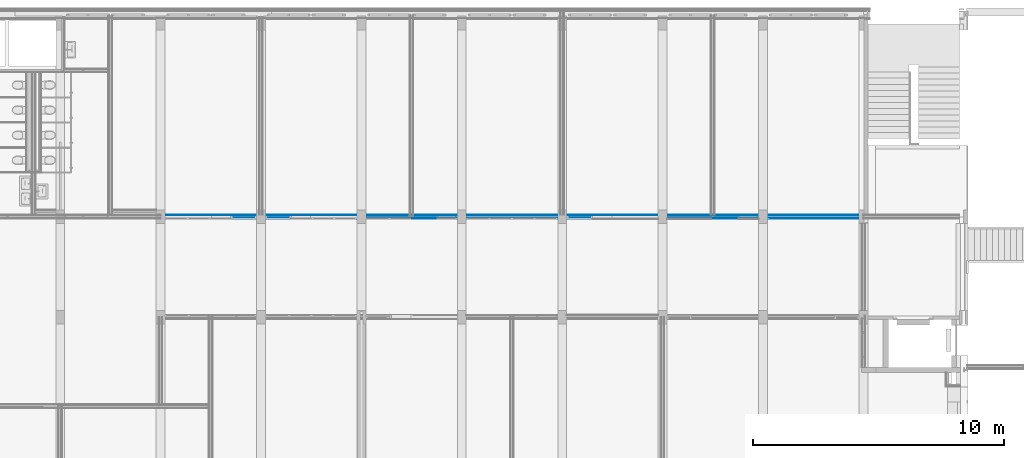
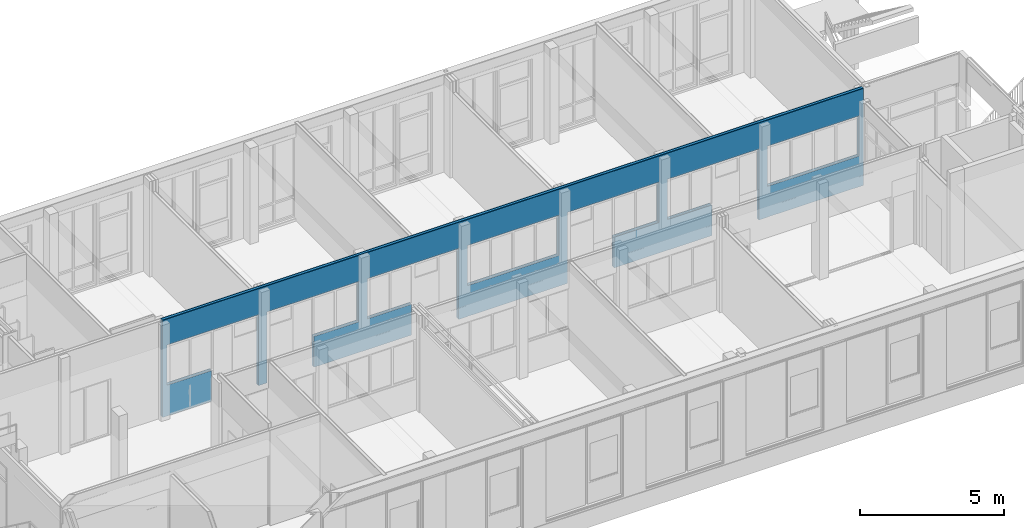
# One storey, part 67 of 94: 5 building element parts, 10 openings, 1 element without a shape of its own.
"""IFC2X3 building model written with IfcOpenShell, lengths in millimetres."""

from ifc_helpers import new_model, entity, si_unit, converted_unit, derived_unit, money_unit, direction, frame, origin_with_axes, place, context, subcontext, project, spatial, faceted_brep, material, type_object, element, aggregate, save


model = new_model("IFC2X3")

# Units and contexts
model_context = context("Model", 3, precision=0.01, world=origin_with_axes(), true_north=direction((0.0, 1.0)))
body_context = subcontext(model_context, "Body", "Model", "MODEL_VIEW")
ifc_project = project(units=[si_unit("LENGTHUNIT", "METRE", prefix="MILLI"), si_unit("AREAUNIT", "SQUARE_METRE"), si_unit("VOLUMEUNIT", "CUBIC_METRE"), converted_unit("PLANEANGLEUNIT", "DEGREE", entity("IfcPlaneAngleMeasure", 0.0174532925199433), si_unit("PLANEANGLEUNIT", "RADIAN"), dimensions=[0, 0, 0, 0, 0, 0, 0]), money_unit("EUR"), converted_unit("TIMEUNIT", "Year", entity("IfcTimeMeasure", 31557600.0), si_unit("TIMEUNIT", "SECOND"), dimensions=[0, 0, 1, 0, 0, 0, 0]), si_unit("MASSUNIT", "GRAM", prefix="KILO"), si_unit("THERMODYNAMICTEMPERATUREUNIT", "DEGREE_CELSIUS"), si_unit("LUMINOUSINTENSITYUNIT", "LUMEN"), si_unit("ENERGYUNIT", "JOULE", prefix="MEGA"), derived_unit("THERMALCONDUCTANCEUNIT", [(si_unit("POWERUNIT", "WATT"), 1), (si_unit("LENGTHUNIT", "METRE"), -1), (si_unit("THERMODYNAMICTEMPERATUREUNIT", "KELVIN"), -1)]), derived_unit("SPECIFICHEATCAPACITYUNIT", [(si_unit("ENERGYUNIT", "JOULE"), 1), (si_unit("MASSUNIT", "GRAM", prefix="KILO"), -1), (si_unit("THERMODYNAMICTEMPERATUREUNIT", "KELVIN"), -1)]), derived_unit("MASSDENSITYUNIT", [(si_unit("MASSUNIT", "GRAM", prefix="KILO"), 1), (si_unit("VOLUMEUNIT", "CUBIC_METRE"), -1)])], contexts=[model_context])

# Site, building, storey
site_placement = place(None, origin_with_axes())
site = spatial("IfcSite", under=ifc_project, at=site_placement, Name="<site naam>", CompositionType="ELEMENT")
building_placement = place(site_placement, origin_with_axes())
building = spatial("IfcBuilding", under=site, at=building_placement, Name="<Naam gebouw>", CompositionType="ELEMENT")
storey_placement = place(building_placement, frame((0.0, 0.0, 4250.0), z_axis=(0.0, 0.0, 1.0), x_axis=(1.0, 0.0, 0.0)))
storey = spatial("IfcBuildingStorey", under=building, at=storey_placement, Name="01 1e verdieping", CompositionType="ELEMENT", Elevation=4250.0)

# Wall, openings, building element parts
wall_type = type_object("IfcWallType", Name="MS-01 GF 150 ECO DGS/2.100.2.A 150", PredefinedType="NOTDEFINED")
wall_placement = place(storey_placement, frame((20000.00000000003, 12000.00000000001, 0.0), z_axis=(0.0, 0.0, 1.0), x_axis=(1.0, 0.0, 0.0)))
wall = element("IfcWall", 1, at=wall_placement, inside=storey, type_object=wall_type, Name="22_Binnenwand_MS-01")
opening_1_placement = place(wall_placement, frame((14000.00013982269, 0.0, 1300.0), z_axis=(0.0, 0.0, 1.0), x_axis=(1.0, 0.0, 0.0)))
element("IfcOpeningElement", 2, at=opening_1_placement, cuts=wall, Name="22_BI-E-01_305", context=body_context, shape_type="Brep", body=[
    faceted_brep([(1825.000000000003, 76.00000000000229, 1700.0), (1825.000000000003, 76.00000000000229, 0.0), (-1825.000000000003, 76.00000000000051, 0.0), (-1825.000000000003, 76.00000000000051, 1700.0), (1825.000000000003, -75.99999999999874, 1700.0), (1825.000000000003, -75.99999999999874, 0.0), (-1825.000000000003, -76.00000000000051, 0.0), (-1825.000000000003, -76.00000000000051, 1700.0)], [[[0, 1, 2, 3]], [[4, 5, 1, 0]], [[5, 6, 2, 1]], [[6, 7, 3, 2]], [[7, 4, 0, 3]], [[6, 5, 4, 7]]]),
])
opening_2_placement = place(wall_placement, frame((6899.999999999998, 0.0, 1300.0), z_axis=(0.0, 0.0, 1.0), x_axis=(1.0, 0.0, 0.0)))
element("IfcOpeningElement", 3, at=opening_2_placement, cuts=wall, Name="22_BI-E-01_305", context=body_context, shape_type="Brep", body=[
    faceted_brep([(925.0000000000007, 75.99999999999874, 1700.0), (925.0000000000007, 75.99999999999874, 0.0), (-925.0000000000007, 75.99999999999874, 0.0), (-925.0000000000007, 75.99999999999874, 1700.0), (925.0000000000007, -76.00000000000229, 1700.0), (925.0000000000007, -76.00000000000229, 0.0), (-925.0000000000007, -76.00000000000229, 0.0), (-925.0000000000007, -76.00000000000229, 1700.0)], [[[0, 1, 2, 3]], [[4, 5, 1, 0]], [[5, 6, 2, 1]], [[6, 7, 3, 2]], [[7, 4, 0, 3]], [[6, 5, 4, 7]]]),
])
opening_3_placement = place(wall_placement, frame((25999.95013982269, 0.0, 1300.0), z_axis=(0.0, 0.0, 1.0), x_axis=(1.0, 0.0, 0.0)))
element("IfcOpeningElement", 4, at=opening_3_placement, cuts=wall, Name="22_BI-E-01_305", context=body_context, shape_type="Brep", body=[
    faceted_brep([(1824.950000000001, 76.00000000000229, 1700.0), (1824.950000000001, 76.00000000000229, 0.0), (-1824.950000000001, 76.00000000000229, 0.0), (-1824.950000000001, 76.00000000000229, 1700.0), (1824.950000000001, -75.99999999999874, 1700.0), (1824.950000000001, -75.99999999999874, 0.0), (-1824.950000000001, -75.99999999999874, 0.0), (-1824.950000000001, -75.99999999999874, 1700.0)], [[[0, 1, 2, 3]], [[4, 5, 1, 0]], [[5, 6, 2, 1]], [[6, 7, 3, 2]], [[7, 4, 0, 3]], [[6, 5, 4, 7]]]),
])
opening_4_placement = place(wall_placement, frame((2891.499938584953, 0.0, 0.0), z_axis=(0.0, 0.0, 1.0), x_axis=(1.0, 0.0, 0.0)))
element("IfcOpeningElement", 5, at=opening_4_placement, cuts=wall, Name="22_BI-E-02_305", context=body_context, shape_type="Brep", body=[
    faceted_brep([(933.4999999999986, 75.99999999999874, 3000.0), (933.4999999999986, 75.99999999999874, 0.0), (-933.4999999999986, 75.99999999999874, 0.0), (-933.4999999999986, 75.99999999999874, 3000.0), (933.4999999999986, -76.00000000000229, 3000.0), (933.4999999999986, -76.00000000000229, 0.0), (-933.4999999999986, -76.00000000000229, 0.0), (-933.4999999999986, -76.00000000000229, 3000.0)], [[[0, 1, 2, 3]], [[4, 5, 1, 0]], [[5, 6, 2, 1]], [[6, 7, 3, 2]], [[7, 4, 0, 3]], [[6, 5, 4, 7]]]),
])
opening_5_placement = place(wall_placement, frame((18900.00000000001, 0.0, 1300.0), z_axis=(0.0, 0.0, 1.0), x_axis=(1.0, 0.0, 0.0)))
element("IfcOpeningElement", 6, at=opening_5_placement, cuts=wall, Name="22_BI-E-01_305", context=body_context, shape_type="Brep", body=[
    faceted_brep([(924.9999999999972, 76.00000000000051, 1700.0), (924.9999999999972, 76.00000000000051, 0.0), (-924.9999999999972, 76.00000000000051, 0.0), (-924.9999999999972, 76.00000000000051, 1700.0), (924.9999999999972, -76.00000000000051, 1700.0), (924.9999999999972, -76.00000000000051, 0.0), (-924.9999999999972, -76.00000000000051, 0.0), (-924.9999999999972, -76.00000000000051, 1700.0)], [[[0, 1, 2, 3]], [[4, 5, 1, 0]], [[5, 6, 2, 1]], [[6, 7, 3, 2]], [[7, 4, 0, 3]], [[6, 5, 4, 7]]]),
])
opening_6_placement = place(wall_placement, frame((1099.999945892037, 0.0, 1300.0), z_axis=(0.0, 0.0, 1.0), x_axis=(1.0, 0.0, 0.0)))
element("IfcOpeningElement", 7, at=opening_6_placement, cuts=wall, Name="22_BI-E-01_305", context=body_context, shape_type="Brep", body=[
    faceted_brep([(925.0000000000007, 75.99999999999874, 1700.0), (925.0000000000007, 75.99999999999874, 0.0), (-925.0000000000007, 75.99999999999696, 0.0), (-925.0000000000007, 75.99999999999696, 1700.0), (925.0000000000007, -76.00000000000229, 1700.0), (925.0000000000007, -76.00000000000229, 0.0), (-925.0000000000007, -76.00000000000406, 0.0), (-925.0000000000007, -76.00000000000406, 1700.0)], [[[0, 1, 2, 3]], [[4, 5, 1, 0]], [[5, 6, 2, 1]], [[6, 7, 3, 2]], [[7, 4, 0, 3]], [[6, 5, 4, 7]]]),
])
opening_7_placement = place(wall_placement, frame((5108.499999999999, 0.0, 0.0), z_axis=(0.0, 0.0, 1.0), x_axis=(1.0, 0.0, 0.0)))
element("IfcOpeningElement", 8, at=opening_7_placement, cuts=wall, Name="22_BI-E-02 sp_305", context=body_context, shape_type="Brep", body=[
    faceted_brep([(933.4999999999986, 75.99999999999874, 3000.0), (933.4999999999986, 75.99999999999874, 0.0), (-933.4999999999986, 75.99999999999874, 0.0), (-933.4999999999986, 75.99999999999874, 3000.0), (933.4999999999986, -76.00000000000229, 3000.0), (933.4999999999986, -76.00000000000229, 0.0), (-933.4999999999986, -76.00000000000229, 0.0), (-933.4999999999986, -76.00000000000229, 3000.0)], [[[0, 1, 2, 3]], [[4, 5, 1, 0]], [[5, 6, 2, 1]], [[6, 7, 3, 2]], [[7, 4, 0, 3]], [[6, 5, 4, 7]]]),
])
opening_8_placement = place(wall_placement, frame((10000.13498763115, 0.0, 0.0), z_axis=(0.0, 0.0, 1.0), x_axis=(1.0, 0.0, 0.0)))
element("IfcOpeningElement", 9, at=opening_8_placement, cuts=wall, Name="22_BI-E-03 sp_305", context=body_context, shape_type="Brep", body=[
    faceted_brep([(-58.86501235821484, 76.00000000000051, 1300.0), (-1825.000000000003, 76.00000000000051, 1300.0), (-1825.000000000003, 76.00000000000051, 3000.0), (1825.000000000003, 76.00000000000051, 3000.0), (1825.000000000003, 76.00000000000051, 0.0), (-58.86501235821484, 76.00000000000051, 0.0), (-58.86501235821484, -76.00000000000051, 1300.0), (-1825.000000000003, -76.00000000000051, 1300.0), (-1825.000000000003, -76.00000000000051, 3000.0), (1825.000000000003, -76.00000000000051, 3000.0), (1825.000000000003, -76.00000000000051, 0.0), (-58.86501235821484, -76.00000000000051, 0.0)], [[[0, 1, 2, 3, 4, 5]], [[6, 7, 1, 0]], [[7, 8, 2, 1]], [[8, 9, 3, 2]], [[9, 10, 4, 3]], [[10, 11, 5, 4]], [[11, 6, 0, 5]], [[8, 7, 6, 11, 10, 9]]]),
])
opening_9_placement = place(wall_placement, frame((22000.13498763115, 0.0, 0.0), z_axis=(0.0, 0.0, 1.0), x_axis=(1.0, 0.0, 0.0)))
element("IfcOpeningElement", 10, at=opening_9_placement, cuts=wall, Name="22_BI-E-03 sp_305", context=body_context, shape_type="Brep", body=[
    faceted_brep([(-58.86501235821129, 76.00000000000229, 1300.0), (-1825.000000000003, 76.00000000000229, 1300.0), (-1825.000000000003, 76.00000000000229, 3000.0), (1825.000000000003, 76.00000000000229, 3000.0), (1825.000000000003, 76.00000000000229, 0.0), (-58.86501235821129, 76.00000000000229, 0.0), (-58.86501235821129, -75.99999999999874, 1300.0), (-1825.000000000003, -75.99999999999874, 1300.0), (-1825.000000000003, -75.99999999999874, 3000.0), (1825.000000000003, -75.99999999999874, 3000.0), (1825.000000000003, -75.99999999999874, 0.0), (-58.86501235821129, -75.99999999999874, 0.0)], [[[0, 1, 2, 3, 4, 5]], [[6, 7, 1, 0]], [[7, 8, 2, 1]], [[8, 9, 3, 2]], [[9, 10, 4, 3]], [[10, 11, 5, 4]], [[11, 6, 0, 5]], [[8, 7, 6, 11, 10, 9]]]),
])
opening_10_placement = place(wall_placement, frame((17108.50000000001, 0.0, 0.0), z_axis=(0.0, 0.0, 1.0), x_axis=(1.0, 0.0, 0.0)))
element("IfcOpeningElement", 11, at=opening_10_placement, cuts=wall, Name="22_BI-E-02 sp_305", context=body_context, shape_type="Brep", body=[
    faceted_brep([(933.5000000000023, 76.00000000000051, 3000.0), (933.5000000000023, 76.00000000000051, 0.0), (-933.5000000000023, 76.00000000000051, 0.0), (-933.5000000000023, 76.00000000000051, 3000.0), (933.5000000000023, -76.00000000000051, 3000.0), (933.5000000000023, -76.00000000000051, 0.0), (-933.5000000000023, -76.00000000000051, 0.0), (-933.5000000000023, -76.00000000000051, 3000.0)], [[[0, 1, 2, 3]], [[4, 5, 1, 0]], [[5, 6, 2, 1]], [[6, 7, 3, 2]], [[7, 4, 0, 3]], [[6, 5, 4, 7]]]),
])
ifc_material_1 = material(Name="gipsplaat")
building_element_part_1_placement = place(wall_placement, origin_with_axes())
building_element_part_1 = element("IfcBuildingElementPart", 12, at=building_element_part_1_placement, material=ifc_material_1, Name="gipsplaat", context=body_context, shape_type="Brep", body=[
    faceted_brep([(0.0, 62.5, 4100.0), (28000.0, 62.50000000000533, 4100.0), (28000.0, 62.50000000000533, 0.0), (15825.00014205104, 62.50000000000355, 0.0), (15825.00014205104, 62.50000000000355, 3.000000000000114), (12175.00013982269, 62.50000000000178, 3.000000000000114), (12175.00013982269, 62.50000000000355, 0.0), (11825.00006482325, 62.50000000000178, 0.0), (11825.00006482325, 62.50000000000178, 3.000000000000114), (10075.13486833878, 62.50000000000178, 3.000000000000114), (10075.13486833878, 62.50000000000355, 0.0), (7824.999998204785, 62.50000000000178, 0.0), (7824.999998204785, 62.50000000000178, 3.000000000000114), (4174.999999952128, 62.50000000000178, 3.000000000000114), (4174.999999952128, 62.50000000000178, 0.0), (0.0, 62.5, 0.0), (2790.999938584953, 62.50000000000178, 22.99999999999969), (2790.999938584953, 62.50000000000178, 19.99999999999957), (3824.999938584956, 62.50000000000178, 19.99999999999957), (3824.999938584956, 62.50000000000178, 22.99999999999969), (16175.0000112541, 62.50000000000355, 22.99999999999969), (16175.0000112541, 62.50000000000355, 19.99999999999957), (17131.51933240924, 62.50000000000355, 19.99999999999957), (17131.51933240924, 62.50000000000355, 22.99999999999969), (26875.11118928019, 62.50000000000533, 22.99999999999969), (26875.11118928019, 62.50000000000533, 19.99999999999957), (27824.99998043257, 62.50000000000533, 19.99999999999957), (27824.99998043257, 62.50000000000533, 22.99999999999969), (28000.0, 50.00000000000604, 4100.0), (0.0, 50.00000000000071, 4100.0), (28000.0, 50.00000000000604, 0.0), (15825.00014205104, 50.00000000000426, 0.0), (15825.00014205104, 50.00000000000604, 3.000000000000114), (12175.00013982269, 50.00000000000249, 3.000000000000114), (12175.00013982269, 50.00000000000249, 0.0), (11825.00006482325, 50.00000000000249, 0.0), (11825.00006482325, 50.00000000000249, 3.000000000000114), (10075.13486833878, 50.00000000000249, 3.000000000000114), (10075.13486833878, 50.00000000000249, 0.0), (7824.999998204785, 50.00000000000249, 0.0), (7824.999998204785, 50.00000000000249, 3.000000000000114), (4174.999999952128, 50.00000000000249, 3.000000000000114), (4174.999999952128, 50.00000000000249, 0.0), (0.0, 50.00000000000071, 0.0), (2790.999938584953, 50.00000000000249, 19.99999999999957), (2790.999938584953, 50.00000000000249, 22.99999999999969), (3824.999938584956, 50.00000000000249, 19.99999999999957), (3824.999938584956, 50.00000000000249, 22.99999999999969), (16175.0000112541, 50.00000000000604, 19.99999999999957), (16175.0000112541, 50.00000000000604, 22.99999999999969), (17131.51933240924, 50.00000000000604, 19.99999999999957), (17131.51933240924, 50.00000000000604, 22.99999999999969), (26875.11118928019, 50.00000000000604, 19.99999999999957), (26875.11118928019, 50.00000000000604, 22.99999999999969), (27824.99998043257, 50.00000000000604, 19.99999999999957), (27824.99998043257, 50.00000000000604, 22.99999999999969)], [[[0, 1, 2, 3, 4, 5, 6, 7, 8, 9, 10, 11, 12, 13, 14, 15], [16, 17, 18, 19], [20, 21, 22, 23], [24, 25, 26, 27]], [[28, 1, 0, 29]], [[1, 28, 30, 2]], [[30, 31, 3, 2]], [[32, 4, 3, 31]], [[33, 5, 4, 32]], [[34, 6, 5, 33]], [[7, 6, 34, 35]], [[36, 8, 7, 35]], [[37, 9, 8, 36]], [[38, 10, 9, 37]], [[11, 10, 38, 39]], [[40, 12, 11, 39]], [[41, 13, 12, 40]], [[42, 14, 13, 41]], [[15, 14, 42, 43]], [[29, 0, 15, 43]], [[44, 17, 16, 45]], [[46, 18, 17, 44]], [[47, 19, 18, 46]], [[45, 16, 19, 47]], [[48, 21, 20, 49]], [[50, 22, 21, 48]], [[51, 23, 22, 50]], [[49, 20, 23, 51]], [[52, 25, 24, 53]], [[54, 26, 25, 52]], [[55, 27, 26, 54]], [[53, 24, 27, 55]], [[28, 29, 43, 42, 41, 40, 39, 38, 37, 36, 35, 34, 33, 32, 31, 30], [46, 44, 45, 47], [50, 48, 49, 51], [54, 52, 53, 55]]]),
])
building_element_part_2_placement = place(wall_placement, origin_with_axes())
building_element_part_2 = element("IfcBuildingElementPart", 13, at=building_element_part_2_placement, material=ifc_material_1, Name="gipsplaat", context=body_context, shape_type="Brep", body=[
    faceted_brep([(0.0, 75.00000000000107, 4100.0), (28000.0, 75.0000000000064, 4100.0), (28000.0, 75.00000000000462, 0.0), (15825.00014205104, 75.0000000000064, 0.0), (15825.00014205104, 75.00000000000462, 3.000000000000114), (12175.00013982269, 75.00000000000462, 3.000000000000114), (12175.00013982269, 75.00000000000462, 0.0), (11825.00006482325, 75.00000000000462, 0.0), (11825.00006482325, 75.00000000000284, 3.000000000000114), (10075.13486833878, 75.00000000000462, 3.000000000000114), (10075.13486833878, 75.00000000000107, 0.0), (7824.999998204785, 75.00000000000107, 0.0), (7824.999998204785, 75.00000000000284, 3.000000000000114), (4174.999999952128, 75.00000000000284, 3.000000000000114), (4174.999999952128, 75.00000000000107, 0.0), (0.0, 74.99999999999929, 0.0), (174.9999458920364, 75.00000000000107, 22.99999999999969), (174.9999458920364, 75.00000000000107, 19.99999999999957), (3824.999938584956, 75.00000000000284, 19.99999999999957), (3824.999938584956, 75.00000000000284, 22.99999999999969), (16175.0000112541, 75.0000000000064, 22.99999999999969), (16175.0000112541, 75.00000000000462, 19.99999999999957), (19824.99993651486, 75.0000000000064, 19.99999999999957), (19824.99993651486, 75.0000000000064, 22.99999999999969), (20174.99989846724, 75.0000000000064, 22.99999999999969), (20174.99989846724, 75.0000000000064, 19.99999999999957), (21925.00018281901, 75.0000000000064, 19.99999999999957), (21925.00018281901, 75.0000000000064, 22.99999999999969), (22075.00002827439, 75.0000000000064, 22.99999999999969), (22075.00002827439, 75.0000000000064, 19.99999999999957), (23825.00001886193, 75.0000000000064, 19.99999999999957), (23825.00001886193, 75.0000000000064, 22.99999999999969), (24175.00004066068, 75.0000000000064, 22.99999999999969), (24175.00004066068, 75.0000000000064, 19.99999999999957), (27824.99998043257, 75.0000000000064, 19.99999999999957), (27824.99998043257, 75.0000000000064, 22.99999999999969), (28000.0, 62.50000000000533, 4100.0), (0.0, 62.5, 4100.0), (28000.0, 62.50000000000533, 0.0), (15825.00014205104, 62.50000000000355, 0.0), (15825.00014205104, 62.50000000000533, 3.000000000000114), (12175.00013982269, 62.50000000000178, 3.000000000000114), (12175.00013982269, 62.50000000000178, 0.0), (11825.00006482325, 62.50000000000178, 0.0), (11825.00006482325, 62.50000000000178, 3.000000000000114), (10075.13486833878, 62.50000000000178, 3.000000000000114), (10075.13486833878, 62.50000000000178, 0.0), (7824.999998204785, 62.50000000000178, 0.0), (7824.999998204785, 62.50000000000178, 3.000000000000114), (4174.999999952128, 62.50000000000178, 3.000000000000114), (4174.999999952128, 62.50000000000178, 0.0), (0.0, 62.5, 0.0), (174.9999458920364, 74.89663354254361, 19.99999999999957), (174.9999458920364, 74.89663354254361, 22.99999999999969), (3824.999938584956, 62.50000000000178, 19.99999999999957), (2790.999938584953, 74.89663354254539, 19.99999999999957), (2790.999938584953, 62.50000000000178, 19.99999999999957), (3824.999938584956, 62.50000000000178, 22.99999999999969), (2790.999938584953, 62.50000000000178, 22.99999999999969), (2790.999938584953, 74.89663354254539, 22.99999999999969), (16175.0000112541, 62.50000000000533, 19.99999999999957), (16175.0000112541, 62.50000000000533, 22.99999999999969), (19824.99993651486, 74.89653102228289, 19.99999999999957), (17131.51933240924, 62.50000000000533, 19.99999999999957), (17131.51933240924, 74.89653102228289, 19.99999999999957), (19824.99993651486, 74.89653102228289, 22.99999999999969), (17131.51933240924, 74.89653102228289, 22.99999999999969), (17131.51933240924, 62.50000000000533, 22.99999999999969), (20174.99989846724, 74.89653102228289, 19.99999999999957), (20174.99989846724, 74.89653102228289, 22.99999999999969), (21925.00018281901, 74.89653102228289, 19.99999999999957), (21925.00018281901, 74.89653102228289, 22.99999999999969), (22075.00002827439, 74.89668459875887, 19.99999999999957), (22075.00002827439, 74.89668459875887, 22.99999999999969), (23825.00001886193, 74.89668459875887, 19.99999999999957), (23825.00001886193, 74.89668459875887, 22.99999999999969), (24175.00004066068, 74.89668459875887, 19.99999999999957), (24175.00004066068, 74.89668459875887, 22.99999999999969), (27824.99998043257, 62.50000000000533, 19.99999999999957), (26875.11118928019, 74.89668459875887, 19.99999999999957), (26875.11118928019, 62.50000000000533, 19.99999999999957), (27824.99998043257, 62.50000000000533, 22.99999999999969), (26875.11118928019, 62.50000000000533, 22.99999999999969), (26875.11118928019, 74.89668459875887, 22.99999999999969)], [[[0, 1, 2, 3, 4, 5, 6, 7, 8, 9, 10, 11, 12, 13, 14, 15], [16, 17, 18, 19], [20, 21, 22, 23], [24, 25, 26, 27], [28, 29, 30, 31], [32, 33, 34, 35]], [[36, 1, 0, 37]], [[1, 36, 38, 2]], [[38, 39, 3, 2]], [[40, 4, 3, 39]], [[41, 5, 4, 40]], [[42, 6, 5, 41]], [[7, 6, 42, 43]], [[44, 8, 7, 43]], [[45, 9, 8, 44]], [[46, 10, 9, 45]], [[11, 10, 46, 47]], [[48, 12, 11, 47]], [[49, 13, 12, 48]], [[50, 14, 13, 49]], [[15, 14, 50, 51]], [[37, 0, 15, 51]], [[52, 17, 16, 53]], [[54, 18, 17, 52, 55, 56]], [[57, 19, 18, 54]], [[53, 16, 19, 57, 58, 59]], [[60, 21, 20, 61]], [[62, 22, 21, 60, 63, 64]], [[65, 23, 22, 62]], [[61, 20, 23, 65, 66, 67]], [[68, 25, 24, 69]], [[70, 26, 25, 68]], [[71, 27, 26, 70]], [[69, 24, 27, 71]], [[72, 29, 28, 73]], [[74, 30, 29, 72]], [[75, 31, 30, 74]], [[73, 28, 31, 75]], [[76, 33, 32, 77]], [[78, 34, 33, 76, 79, 80]], [[81, 35, 34, 78]], [[77, 32, 35, 81, 82, 83]], [[36, 37, 51, 50, 49, 48, 47, 46, 45, 44, 43, 42, 41, 40, 39, 38], [54, 56, 58, 57], [63, 60, 61, 67], [78, 80, 82, 81]], [[55, 52, 53, 59]], [[59, 58, 56, 55]], [[64, 63, 67, 66]], [[64, 66, 65, 62]], [[68, 69, 71, 70]], [[72, 73, 75, 74]], [[76, 77, 83, 79]], [[83, 82, 80, 79]]]),
])
ifc_material_2 = material(Name="isolatie_steenwol LSW")
building_element_part_3_placement = place(wall_placement, origin_with_axes())
building_element_part_3 = element("IfcBuildingElementPart", 14, at=building_element_part_3_placement, material=ifc_material_2, Name="isolatie_steenwol LSW", context=body_context, shape_type="Brep", body=[
    faceted_brep([(0.0, 50.00000000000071, 4100.0), (28000.0, 50.00000000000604, 4100.0), (28000.0, 50.00000000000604, 0.0), (15825.00014205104, 50.00000000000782, 0.0), (15825.00014205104, 50.00000000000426, 3.000000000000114), (12175.00013982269, 50.00000000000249, 3.000000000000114), (12175.00013982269, 50.00000000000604, 0.0), (11825.00006482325, 50.00000000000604, 0.0), (11825.00006482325, 50.00000000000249, 3.000000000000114), (10075.13486833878, 50.00000000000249, 3.000000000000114), (10075.13486833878, 50.00000000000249, 0.0), (7824.999998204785, 50.00000000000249, 0.0), (7824.999998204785, 50.00000000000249, 3.000000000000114), (4174.999999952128, 50.00000000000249, 3.000000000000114), (4174.999999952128, 50.00000000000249, 0.0), (0.0, 50.00000000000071, 0.0), (2790.999938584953, 50.00000000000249, 22.99999999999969), (2790.999938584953, 50.00000000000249, 19.99999999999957), (3824.999938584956, 50.00000000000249, 19.99999999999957), (3824.999938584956, 50.00000000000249, 22.99999999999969), (16175.0000112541, 50.00000000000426, 22.99999999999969), (16175.0000112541, 50.00000000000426, 19.99999999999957), (17131.51933240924, 50.00000000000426, 19.99999999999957), (17131.51933240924, 50.00000000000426, 22.99999999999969), (26875.11118928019, 50.00000000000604, 22.99999999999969), (26875.11118928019, 50.00000000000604, 19.99999999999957), (27824.99998043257, 50.00000000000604, 19.99999999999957), (27824.99998043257, 50.00000000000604, 22.99999999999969), (28000.0, -49.99999999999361, 4100.0), (0.0, -49.99999999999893, 4100.0), (28000.0, -49.99999999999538, 3.000000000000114), (28000.0, 0.0, 3.000000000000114), (28000.0, 0.0, 0.0), (14876.21788450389, -39.58989925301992, 0.0), (15825.00014205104, -39.58989925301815, 0.0), (24175.0, 0.0, 0.0), (24175.0, -49.99999999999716, 0.0), (14876.21788450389, -49.99999999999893, 0.0), (15825.00014205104, -39.58989925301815, 3.000000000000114), (12175.00013982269, -49.99999999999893, 3.000000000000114), (14876.21788450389, -39.58989925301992, 3.000000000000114), (14876.21788450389, -49.99999999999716, 3.000000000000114), (12175.00013982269, -49.99999999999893, 0.0), (11825.00006482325, -49.99999999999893, 0.0), (11825.00006482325, -49.99999999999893, 3.000000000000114), (10075.13486833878, -49.99999999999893, 3.000000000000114), (10075.13486833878, -49.99999999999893, 0.0), (7824.999998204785, -49.99999999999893, 0.0), (7824.999998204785, -49.99999999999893, 3.000000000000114), (4174.999999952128, -49.99999999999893, 3.000000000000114), (4174.999999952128, -49.99999999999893, 0.0), (0.0, -50.00000000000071, 0.0), (2790.999938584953, -49.99999999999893, 19.99999999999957), (2790.999938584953, -49.99999999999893, 22.99999999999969), (3824.999938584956, -49.99999999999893, 19.99999999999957), (3824.999938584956, -49.99999999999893, 22.99999999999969), (16175.0000112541, -37.28940112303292, 19.99999999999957), (16175.0000112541, -37.28940112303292, 22.99999999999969), (17131.51933240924, -37.28940112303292, 19.99999999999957), (17131.51933240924, -37.28940112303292, 22.99999999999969), (26875.11118928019, -21.09914468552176, 19.99999999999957), (26875.11118928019, -21.09914468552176, 22.99999999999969), (27824.99998043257, -21.09914468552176, 19.99999999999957), (27824.99998043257, -21.09914468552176, 22.99999999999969), (24175.0, -49.99999999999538, 3.000000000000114), (24175.0, 0.0, 3.000000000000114)], [[[0, 1, 2, 3, 4, 5, 6, 7, 8, 9, 10, 11, 12, 13, 14, 15], [16, 17, 18, 19], [20, 21, 22, 23], [24, 25, 26, 27]], [[28, 1, 0, 29]], [[1, 28, 30, 31, 32, 2]], [[33, 34, 3, 2, 32, 35, 36, 37]], [[38, 4, 3, 34]], [[39, 5, 4, 38, 40, 41]], [[42, 6, 5, 39]], [[7, 6, 42, 43]], [[44, 8, 7, 43]], [[45, 9, 8, 44]], [[46, 10, 9, 45]], [[11, 10, 46, 47]], [[48, 12, 11, 47]], [[49, 13, 12, 48]], [[50, 14, 13, 49]], [[15, 14, 50, 51]], [[29, 0, 15, 51]], [[52, 17, 16, 53]], [[54, 18, 17, 52]], [[55, 19, 18, 54]], [[53, 16, 19, 55]], [[56, 21, 20, 57]], [[58, 22, 21, 56]], [[59, 23, 22, 58]], [[57, 20, 23, 59]], [[60, 25, 24, 61]], [[62, 26, 25, 60]], [[63, 27, 26, 62]], [[61, 24, 27, 63]], [[28, 29, 51, 50, 49, 48, 47, 46, 45, 44, 43, 42, 39, 41, 37, 36, 64, 30], [54, 52, 53, 55]], [[65, 31, 30, 64]], [[35, 32, 31, 65]], [[38, 34, 33, 40]], [[64, 36, 35, 65]], [[40, 33, 37, 41]], [[56, 57, 59, 58]], [[60, 61, 63, 62]]]),
])
building_element_part_4_placement = place(wall_placement, origin_with_axes())
building_element_part_4 = element("IfcBuildingElementPart", 15, at=building_element_part_4_placement, material=ifc_material_1, Name="gipsplaat", context=body_context, shape_type="Brep", body=[
    faceted_brep([(0.0, -49.99999999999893, 4100.0), (28000.0, -49.99999999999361, 4100.0), (28000.0, -49.99999999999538, 3.000000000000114), (24175.0, -49.99999999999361, 3.000000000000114), (24175.0, -49.99999999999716, 0.0), (14876.21788450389, -49.99999999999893, 0.0), (14876.21788450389, -49.99999999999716, 3.000000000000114), (12175.00013982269, -49.99999999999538, 3.000000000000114), (12175.00013982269, -49.99999999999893, 0.0), (11825.00006482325, -49.99999999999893, 0.0), (11825.00006482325, -49.99999999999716, 3.000000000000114), (10075.13486833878, -49.99999999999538, 3.000000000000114), (10075.13486833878, -49.99999999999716, 0.0), (7824.999998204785, -49.99999999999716, 0.0), (7824.999998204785, -49.99999999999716, 3.000000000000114), (4174.999999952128, -49.99999999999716, 3.000000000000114), (4174.999999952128, -49.99999999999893, 0.0), (0.0, -50.00000000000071, 0.0), (2790.999938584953, -49.99999999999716, 22.99999999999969), (2790.999938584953, -49.99999999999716, 19.99999999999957), (3824.999938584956, -49.99999999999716, 19.99999999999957), (3824.999938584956, -49.99999999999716, 22.99999999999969), (28000.0, -62.49999999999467, 4100.0), (0.0, -62.5, 4100.0), (28000.0, -62.49999999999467, 3.000000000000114), (24175.0, -62.49999999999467, 3.000000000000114), (24175.0, -62.49999999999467, 0.0), (14876.21788450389, -62.49999999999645, 0.0), (14876.21788450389, -62.49999999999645, 3.000000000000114), (12175.00013982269, -62.49999999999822, 3.000000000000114), (12175.00013982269, -62.49999999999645, 0.0), (11825.00006482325, -62.49999999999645, 0.0), (11825.00006482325, -62.49999999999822, 3.000000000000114), (10075.13486833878, -62.49999999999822, 3.000000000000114), (10075.13486833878, -62.49999999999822, 0.0), (7824.999998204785, -62.49999999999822, 0.0), (7824.999998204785, -62.49999999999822, 3.000000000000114), (4174.999999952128, -62.49999999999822, 3.000000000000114), (4174.999999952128, -62.49999999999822, 0.0), (0.0, -62.5, 0.0), (2790.999938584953, -56.89500581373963, 19.99999999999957), (2790.999938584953, -56.89500581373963, 22.99999999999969), (3824.999938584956, -56.89500581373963, 19.99999999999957), (3824.999938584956, -56.89500581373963, 22.99999999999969)], [[[0, 1, 2, 3, 4, 5, 6, 7, 8, 9, 10, 11, 12, 13, 14, 15, 16, 17], [18, 19, 20, 21]], [[22, 1, 0, 23]], [[1, 22, 24, 2]], [[25, 3, 2, 24]], [[26, 4, 3, 25]], [[26, 27, 5, 4]], [[28, 6, 5, 27]], [[29, 7, 6, 28]], [[30, 8, 7, 29]], [[9, 8, 30, 31]], [[32, 10, 9, 31]], [[33, 11, 10, 32]], [[34, 12, 11, 33]], [[13, 12, 34, 35]], [[36, 14, 13, 35]], [[37, 15, 14, 36]], [[38, 16, 15, 37]], [[17, 16, 38, 39]], [[23, 0, 17, 39]], [[40, 19, 18, 41]], [[42, 20, 19, 40]], [[43, 21, 20, 42]], [[41, 18, 21, 43]], [[22, 23, 39, 38, 37, 36, 35, 34, 33, 32, 31, 30, 29, 28, 27, 26, 25, 24]], [[42, 40, 41, 43]]]),
])
building_element_part_5_placement = place(wall_placement, origin_with_axes())
building_element_part_5 = element("IfcBuildingElementPart", 16, at=building_element_part_5_placement, material=ifc_material_1, Name="gipsplaat", context=body_context, shape_type="Brep", body=[
    faceted_brep([(0.0, -62.5, 4100.0), (28000.0, -62.49999999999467, 4100.0), (28000.0, -62.49999999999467, 3.000000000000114), (24175.0, -62.49999999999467, 3.000000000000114), (24175.0, -62.49999999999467, 0.0), (14876.21788450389, -62.49999999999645, 0.0), (14876.21788450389, -62.49999999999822, 3.000000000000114), (12175.00013982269, -62.49999999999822, 3.000000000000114), (12175.00013982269, -62.49999999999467, 0.0), (11825.00006482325, -62.49999999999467, 0.0), (11825.00006482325, -62.49999999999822, 3.000000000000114), (10075.13486833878, -62.49999999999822, 3.000000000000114), (10075.13486833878, -62.49999999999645, 0.0), (7824.999998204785, -62.49999999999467, 0.0), (7824.999998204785, -62.49999999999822, 3.000000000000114), (4174.999999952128, -62.49999999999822, 3.000000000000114), (4174.999999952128, -62.49999999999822, 0.0), (0.0, -62.5, 0.0), (28000.0, -74.99999999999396, 4100.0), (0.0, -74.99999999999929, 4100.0), (28000.0, -74.99999999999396, 3.000000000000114), (24175.0, -74.99999999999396, 3.000000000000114), (24175.0, -74.99999999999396, 0.0), (14876.21788450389, -74.99999999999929, 0.0), (14876.21788450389, -74.99999999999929, 3.000000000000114), (12175.00013982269, -74.99999999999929, 3.000000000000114), (12175.00013982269, -74.99999999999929, 0.0), (11824.99999999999, -74.99999999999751, 0.0), (11825.00006482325, -74.98935758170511, 0.0), (11824.99999999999, -74.99999999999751, 3.000000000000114), (11825.00006482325, -74.98935758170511, 3.000000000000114), (8175.000000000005, -74.98935758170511, 3.000000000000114), (10075.13486833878, -74.98935758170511, 3.000000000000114), (8175.000000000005, -74.99999999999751, 3.000000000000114), (10075.13486833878, -74.98935758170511, 0.0), (8175.000000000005, -74.98935758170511, 0.0), (8175.000000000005, -74.99999999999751, 0.0), (7825.000000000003, -74.99999999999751, 0.0), (7825.000000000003, -74.99999999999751, 3.000000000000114), (4175.000000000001, -74.99999999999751, 3.000000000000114), (4175.000000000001, -74.99999999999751, 0.0), (3824.999999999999, -74.99999999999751, 0.0), (3824.999999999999, -74.98935758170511, 0.0), (175.0000000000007, -74.98935758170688, 0.0), (175.0000000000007, -74.99999999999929, 0.0), (0.0, -74.99999999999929, 0.0), (175.0000000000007, -74.99999999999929, 3.000000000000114), (3824.999999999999, -74.99999999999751, 3.000000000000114), (3824.999999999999, -74.98935758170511, 3.000000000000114), (175.0000000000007, -74.98935758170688, 3.000000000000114)], [[[0, 1, 2, 3, 4, 5, 6, 7, 8, 9, 10, 11, 12, 13, 14, 15, 16, 17]], [[18, 1, 0, 19]], [[1, 18, 20, 2]], [[21, 3, 2, 20]], [[22, 4, 3, 21]], [[22, 23, 5, 4]], [[24, 6, 5, 23]], [[25, 7, 6, 24]], [[26, 8, 7, 25]], [[9, 8, 26, 27, 28]], [[29, 30, 10, 9, 28, 27]], [[31, 32, 11, 10, 30, 29, 33]], [[34, 12, 11, 32]], [[13, 12, 34, 35, 36, 37]], [[38, 14, 13, 37]], [[39, 15, 14, 38]], [[40, 16, 15, 39]], [[17, 16, 40, 41, 42, 43, 44, 45]], [[19, 0, 17, 45]], [[18, 19, 45, 44, 46, 47, 41, 40, 39, 38, 37, 36, 33, 29, 27, 26, 25, 24, 23, 22, 21, 20]], [[35, 34, 32, 31]], [[33, 36, 35, 31]], [[48, 42, 41, 47]], [[49, 43, 42, 48]], [[46, 44, 43, 49]], [[48, 47, 46, 49]]]),
])
aggregate(wall, [building_element_part_1, building_element_part_2, building_element_part_3, building_element_part_4, building_element_part_5])

save(model, "model.ifc")
